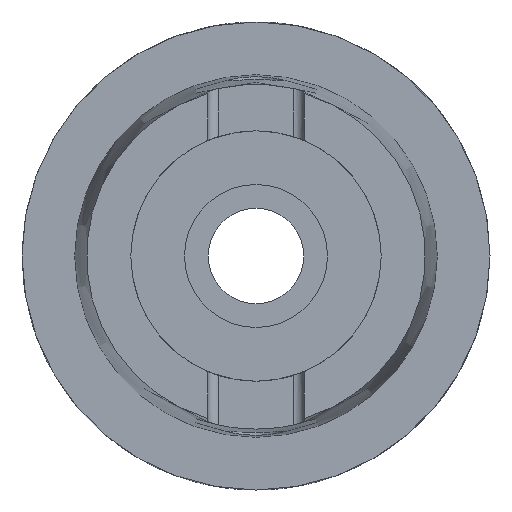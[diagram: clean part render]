
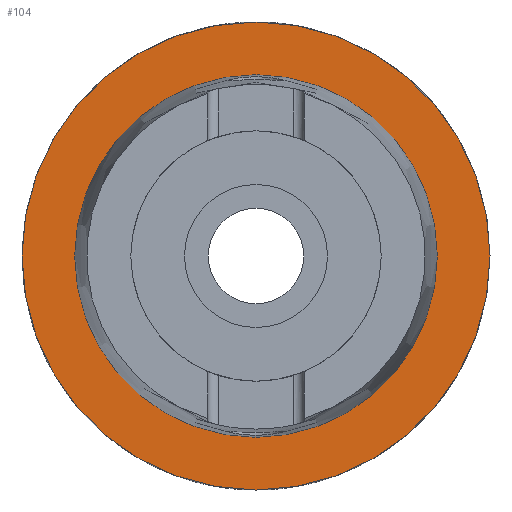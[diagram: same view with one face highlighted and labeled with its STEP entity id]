
A CAD part, left-side view. The second image highlights one B-rep face of the part: STEP entity #104.
In plain terms, the highlighted planar face has unit normal (-1, 0, 0).
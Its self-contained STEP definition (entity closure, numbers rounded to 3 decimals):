
#104 = ADVANCED_FACE( '', ( #216, #217 ), #218, .T. );
#216 = FACE_BOUND( '', #399, .T. );
#217 = FACE_OUTER_BOUND( '', #400, .T. );
#218 = PLANE( '', #401 );
#399 = EDGE_LOOP( '', ( #781 ) );
#400 = EDGE_LOOP( '', ( #782 ) );
#401 = AXIS2_PLACEMENT_3D( '', #783, #784, #785 );
#781 = ORIENTED_EDGE( '', *, *, #1204, .T. );
#782 = ORIENTED_EDGE( '', *, *, #1174, .F. );
#783 = CARTESIAN_POINT( '', ( 0., 19.625, 0. ) );
#784 = DIRECTION( '', ( -1., 0., 0. ) );
#785 = DIRECTION( '', ( 0., 0., 1. ) );
#1174 = EDGE_CURVE( '', #1411, #1411, #1412, .T. );
#1204 = EDGE_CURVE( '', #1462, #1462, #1463, .T. );
#1411 = VERTEX_POINT( '', #1827 );
#1412 = CIRCLE( '', #1828, 19.625 );
#1462 = VERTEX_POINT( '', #2046 );
#1463 = CIRCLE( '', #2047, 15.204 );
#1827 = CARTESIAN_POINT( '', ( 0., 0., -19.625 ) );
#1828 = AXIS2_PLACEMENT_3D( '', #2447, #2448, #2449 );
#2046 = CARTESIAN_POINT( '', ( 0., 0., -15.204 ) );
#2047 = AXIS2_PLACEMENT_3D( '', #2481, #2482, #2483 );
#2447 = CARTESIAN_POINT( '', ( 0., 0., 0. ) );
#2448 = DIRECTION( '', ( 1., 0., 0. ) );
#2449 = DIRECTION( '', ( 0., 0., -1. ) );
#2481 = CARTESIAN_POINT( '', ( 0., 0., 0. ) );
#2482 = DIRECTION( '', ( 1., 0., 0. ) );
#2483 = DIRECTION( '', ( 0., 0., -1. ) );
